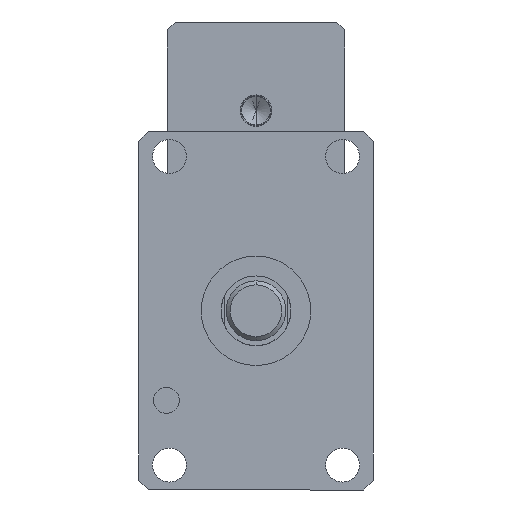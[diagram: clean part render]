
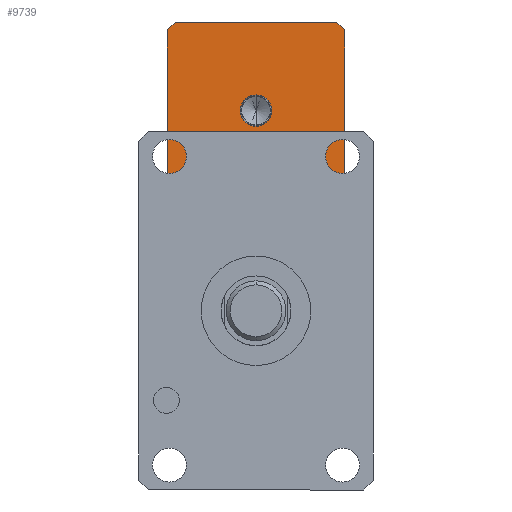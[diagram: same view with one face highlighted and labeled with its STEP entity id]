
A CAD part, front view. The second image highlights one B-rep face of the part: STEP entity #9739.
In plain terms, the highlighted planar face has unit normal (0, -1, 0).
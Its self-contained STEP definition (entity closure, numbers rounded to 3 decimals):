
#194 = CARTESIAN_POINT ( 'NONE',  ( 44.5, 260., 141. ) ) ;
#229 = DIRECTION ( 'NONE',  ( 0., 0., 1. ) ) ;
#233 = VECTOR ( 'NONE', #3185, 1000. ) ;
#289 = ORIENTED_EDGE ( 'NONE', *, *, #5286, .F. ) ;
#533 = LINE ( 'NONE', #9208, #2202 ) ;
#597 = VECTOR ( 'NONE', #1647, 1000. ) ;
#602 = EDGE_CURVE ( 'NONE', #986, #7774, #3169, .T. ) ;
#670 = CARTESIAN_POINT ( 'NONE',  ( -44.5, 260., 145. ) ) ;
#951 = CARTESIAN_POINT ( 'NONE',  ( 44.5, 260., 60. ) ) ;
#986 = VERTEX_POINT ( 'NONE', #11128 ) ;
#1160 = DIRECTION ( 'NONE',  ( -0.707, 0., -0.707 ) ) ;
#1246 = CARTESIAN_POINT ( 'NONE',  ( 0., 260., 100.5 ) ) ;
#1295 = VECTOR ( 'NONE', #1695, 1000. ) ;
#1521 = ORIENTED_EDGE ( 'NONE', *, *, #5344, .T. ) ;
#1542 = CARTESIAN_POINT ( 'NONE',  ( 44.5, 260., 56. ) ) ;
#1647 = DIRECTION ( 'NONE',  ( 0., 0., -1. ) ) ;
#1695 = DIRECTION ( 'NONE',  ( 1., 0., 0. ) ) ;
#1960 = VERTEX_POINT ( 'NONE', #6898 ) ;
#2192 = VERTEX_POINT ( 'NONE', #2473 ) ;
#2202 = VECTOR ( 'NONE', #6302, 1000. ) ;
#2222 = DIRECTION ( 'NONE',  ( 0., 0., -1. ) ) ;
#2338 = EDGE_LOOP ( 'NONE', ( #11328, #6919, #9016, #7333, #289, #1521, #10505, #5672 ) ) ;
#2473 = CARTESIAN_POINT ( 'NONE',  ( -40.5, 260., 145. ) ) ;
#2609 = AXIS2_PLACEMENT_3D ( 'NONE', #1246, #8024, #2222 ) ;
#2636 = VECTOR ( 'NONE', #1160, 1000. ) ;
#2830 = VERTEX_POINT ( 'NONE', #7414 ) ;
#2941 = ORIENTED_EDGE ( 'NONE', *, *, #7549, .F. ) ;
#3107 = PLANE ( 'NONE',  #9775 ) ;
#3154 = DIRECTION ( 'NONE',  ( 0., -1., 0. ) ) ;
#3169 = LINE ( 'NONE', #670, #597 ) ;
#3185 = DIRECTION ( 'NONE',  ( 0., 0., -1. ) ) ;
#3239 = AXIS2_PLACEMENT_3D ( 'NONE', #8960, #3154, #9969 ) ;
#3413 = VECTOR ( 'NONE', #4895, 1000. ) ;
#3441 = VERTEX_POINT ( 'NONE', #194 ) ;
#3703 = CARTESIAN_POINT ( 'NONE',  ( 0., 260., 92.597 ) ) ;
#3909 = FACE_BOUND ( 'NONE', #9991, .T. ) ;
#4091 = CARTESIAN_POINT ( 'NONE',  ( 44.5, 260., 145. ) ) ;
#4170 = CARTESIAN_POINT ( 'NONE',  ( 44.5, 260., 145. ) ) ;
#4177 = LINE ( 'NONE', #4638, #1295 ) ;
#4335 = VECTOR ( 'NONE', #8316, 1000. ) ;
#4511 = CARTESIAN_POINT ( 'NONE',  ( -44.5, 260., 60. ) ) ;
#4638 = CARTESIAN_POINT ( 'NONE',  ( 44.5, 260., 145. ) ) ;
#4895 = DIRECTION ( 'NONE',  ( 0.707, 0., 0.707 ) ) ;
#4945 = VECTOR ( 'NONE', #12103, 1000. ) ;
#4969 = EDGE_CURVE ( 'NONE', #7774, #5245, #7512, .T. ) ;
#5041 = EDGE_CURVE ( 'NONE', #5245, #2830, #12112, .T. ) ;
#5160 = VERTEX_POINT ( 'NONE', #951 ) ;
#5188 = EDGE_CURVE ( 'NONE', #2830, #5160, #8570, .T. ) ;
#5245 = VERTEX_POINT ( 'NONE', #8952 ) ;
#5286 = EDGE_CURVE ( 'NONE', #3441, #5160, #10587, .T. ) ;
#5344 = EDGE_CURVE ( 'NONE', #3441, #10715, #533, .T. ) ;
#5444 = EDGE_CURVE ( 'NONE', #2192, #10715, #4177, .T. ) ;
#5482 = CIRCLE ( 'NONE', #3239, 7.903 ) ;
#5607 = EDGE_CURVE ( 'NONE', #2192, #986, #7495, .T. ) ;
#5672 = ORIENTED_EDGE ( 'NONE', *, *, #5607, .T. ) ;
#5846 = CARTESIAN_POINT ( 'NONE',  ( 44.5, 260., 60. ) ) ;
#6014 = DIRECTION ( 'NONE',  ( 0., 1., 0. ) ) ;
#6175 = FACE_OUTER_BOUND ( 'NONE', #2338, .T. ) ;
#6226 = CARTESIAN_POINT ( 'NONE',  ( -44.5, 260., 60. ) ) ;
#6302 = DIRECTION ( 'NONE',  ( -0.707, 0., 0.707 ) ) ;
#6898 = CARTESIAN_POINT ( 'NONE',  ( 0., 260., 108.403 ) ) ;
#6919 = ORIENTED_EDGE ( 'NONE', *, *, #4969, .T. ) ;
#7333 = ORIENTED_EDGE ( 'NONE', *, *, #5188, .T. ) ;
#7414 = CARTESIAN_POINT ( 'NONE',  ( 40.5, 260., 56. ) ) ;
#7495 = LINE ( 'NONE', #7916, #2636 ) ;
#7512 = LINE ( 'NONE', #6226, #4945 ) ;
#7549 = EDGE_CURVE ( 'NONE', #11429, #1960, #5482, .T. ) ;
#7774 = VERTEX_POINT ( 'NONE', #4511 ) ;
#7916 = CARTESIAN_POINT ( 'NONE',  ( -40.5, 260., 145. ) ) ;
#8024 = DIRECTION ( 'NONE',  ( 0., -1., 0. ) ) ;
#8316 = DIRECTION ( 'NONE',  ( 1., 0., 0. ) ) ;
#8570 = LINE ( 'NONE', #5846, #3413 ) ;
#8952 = CARTESIAN_POINT ( 'NONE',  ( -40.5, 260., 56. ) ) ;
#8960 = CARTESIAN_POINT ( 'NONE',  ( 0., 260., 100.5 ) ) ;
#9016 = ORIENTED_EDGE ( 'NONE', *, *, #5041, .T. ) ;
#9208 = CARTESIAN_POINT ( 'NONE',  ( 40.5, 260., 145. ) ) ;
#9739 = ADVANCED_FACE ( 'NONE', ( #3909, #6175 ), #3107, .F. ) ;
#9763 = ORIENTED_EDGE ( 'NONE', *, *, #11597, .F. ) ;
#9775 = AXIS2_PLACEMENT_3D ( 'NONE', #4091, #6014, #229 ) ;
#9969 = DIRECTION ( 'NONE',  ( 0., 0., -1. ) ) ;
#9974 = CARTESIAN_POINT ( 'NONE',  ( 40.5, 260., 145. ) ) ;
#9991 = EDGE_LOOP ( 'NONE', ( #2941, #9763 ) ) ;
#10505 = ORIENTED_EDGE ( 'NONE', *, *, #5444, .F. ) ;
#10587 = LINE ( 'NONE', #4170, #233 ) ;
#10715 = VERTEX_POINT ( 'NONE', #9974 ) ;
#11128 = CARTESIAN_POINT ( 'NONE',  ( -44.5, 260., 141. ) ) ;
#11328 = ORIENTED_EDGE ( 'NONE', *, *, #602, .T. ) ;
#11429 = VERTEX_POINT ( 'NONE', #3703 ) ;
#11597 = EDGE_CURVE ( 'NONE', #1960, #11429, #11642, .T. ) ;
#11642 = CIRCLE ( 'NONE', #2609, 7.903 ) ;
#12103 = DIRECTION ( 'NONE',  ( 0.707, 0., -0.707 ) ) ;
#12112 = LINE ( 'NONE', #1542, #4335 ) ;
